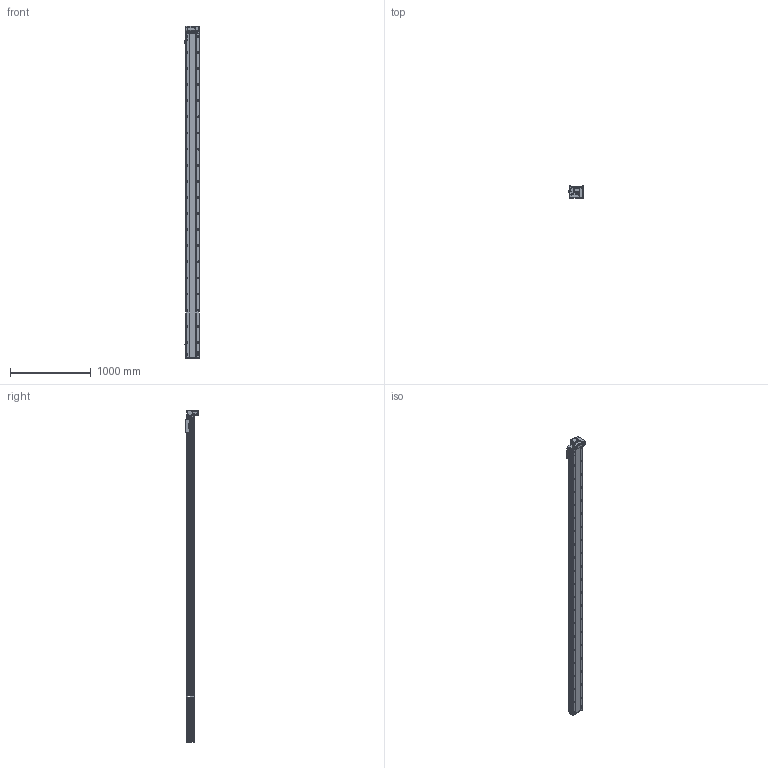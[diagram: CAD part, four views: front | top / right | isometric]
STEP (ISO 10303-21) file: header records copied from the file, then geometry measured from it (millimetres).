
FILE_DESCRIPTION (( 'STEP AP214' ), '1' );
FILE_NAME ('RTB17S-XX-3750-RM-M40-C4.STEP', '2025-12-11T08:41:03', ( '' ), ( '' ), 'SwSTEP 2.0', 'SolidWorks 2018', '' );
FILE_SCHEMA (( 'AUTOMOTIVE_DESIGN' ));
Length unit declared in the file: millimetre
Products named in the file (14): RTB14-L-018P^RTB17S-RM-々湍釱蚾饜-400W_RTB17S-XX-XX-RM-M40-C4; RTB17S-L-014-T20--々湍釱^RTB17S-RM-々湍釱蚾饜-400W_RTB17S-XX-XX-RM-M40-C4; RTB14-L-005P--轴承塑胶压盖^RTB17S-RM-皮带座装配-400W_RTB17S-XX-XX-RM-M40-C4; RTB14-L-008-M20--萇儂啣^RTB17S-RM-々湍釱蚾饜-400W_RTB17S-XX-XX-RM-M40-C4; RTH13-BL-012覜茼え俋离^RTB17S-XX-XX-RM-M40-C4; RTB17S-L-004佪裝蹟譫蟀諉釱^RTB17S-XX-XX-RM-M40-C4; OMRON EE-SX672 传感器^RTB17S-XX-XX-RM-M40-C4; RTB17S-RM-々湍釱蚾饜-400W^RTB17S-XX-XX-RM-M40-C4; RTB17-R-011菁釱^RTB17S-XX-XX-RM-M40-C4; 400W侜督萇儂^RTB17S-XX-XX-RM-M40-C4; RTB17S-L-001耜醱啣^RTB17S-XX-XX-RM-M40-C4; RTB14-L-017P^RTB17S-RM-々湍釱蚾饜-400W_RTB17S-XX-XX-RM-M40-C4; RTB17S-XX-3750-RM-M40-C4; RTB17S-L-007奻裔^RTB17S-XX-XX-RM-M40-C4
Assembly tree (16 placements, depth 3):
  RTB17S-XX-3750-RM-M40-C4
    RTB17-R-011菁釱^RTB17S-XX-XX-RM-M40-C4
    RTB17S-L-007奻裔^RTB17S-XX-XX-RM-M40-C4
    OMRON EE-SX672 传感器^RTB17S-XX-XX-RM-M40-C4  x3
    RTB17S-L-001耜醱啣^RTB17S-XX-XX-RM-M40-C4
    400W侜督萇儂^RTB17S-XX-XX-RM-M40-C4
    RTB17S-L-004佪裝蹟譫蟀諉釱^RTB17S-XX-XX-RM-M40-C4
    RTH13-BL-012覜茼え俋离^RTB17S-XX-XX-RM-M40-C4
    RTB17S-RM-々湍釱蚾饜-400W^RTB17S-XX-XX-RM-M40-C4
      RTB17S-L-014-T20--々湍釱^RTB17S-RM-々湍釱蚾饜-400W_RTB17S-XX-XX-RM-M40-C4
      RTB14-L-005P--轴承塑胶压盖^RTB17S-RM-皮带座装配-400W_RTB17S-XX-XX-RM-M40-C4
      RTB14-L-008-M20--萇儂啣^RTB17S-RM-々湍釱蚾饜-400W_RTB17S-XX-XX-RM-M40-C4
      RTB14-L-017P^RTB17S-RM-々湍釱蚾饜-400W_RTB17S-XX-XX-RM-M40-C4  x2
      RTB14-L-018P^RTB17S-RM-々湍釱蚾饜-400W_RTB17S-XX-XX-RM-M40-C4
Bounding box: 183.5 x 156.5 x 4122.5 mm (x, y, z)
Volume: 34800353.1 mm3; surface area: 3943616.1 mm2
Topology: 15 solids, 15 shells, 2429 faces, 6843 edges, 4473 vertices
Faces by surface type: plane 1096, cylinder 885, bspline 301, cone 139, torus 8
Entity records: 73385 total; most frequent: CARTESIAN_POINT 21048, ORIENTED_EDGE 10530, DIRECTION 9656, EDGE_CURVE 5265, VERTEX_POINT 3461, AXIS2_PLACEMENT_3D 3391, LINE 2874, VECTOR 2874
